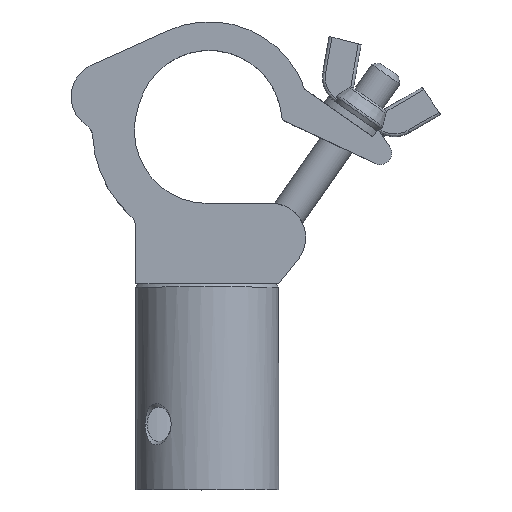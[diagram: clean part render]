
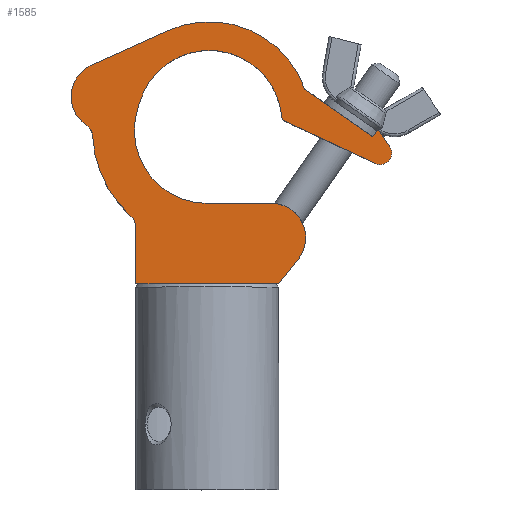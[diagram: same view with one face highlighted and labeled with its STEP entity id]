
A CAD part, top view. The second image highlights one B-rep face of the part: STEP entity #1585.
In plain terms, the highlighted planar face has unit normal (0, 0, 1).
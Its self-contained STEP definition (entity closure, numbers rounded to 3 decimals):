
#118=PLANE('',#1756);
#190=FACE_OUTER_BOUND('',#274,.T.);
#274=EDGE_LOOP('',(#1322,#1323,#1324,#1325,#1326,#1327,#1328,#1329,#1330,
#1331,#1332,#1333,#1334,#1335,#1336,#1337,#1338,#1339,#1340,#1341,#1342,
#1343));
#328=CIRCLE('',#1718,25.4);
#329=CIRCLE('',#1721,2.);
#332=CIRCLE('',#1732,4.);
#334=CIRCLE('',#1736,35.4);
#343=CIRCLE('',#1747,12.);
#346=CIRCLE('',#1755,12.);
#347=CIRCLE('',#1757,5.);
#348=CIRCLE('',#1758,40.);
#349=CIRCLE('',#1759,5.);
#350=CIRCLE('',#1760,12.);
#351=CIRCLE('',#1761,25.4);
#380=LINE('',#2286,#488);
#425=LINE('',#2729,#533);
#434=LINE('',#2753,#542);
#435=LINE('',#2756,#543);
#437=LINE('',#2760,#545);
#449=LINE('',#2808,#557);
#450=LINE('',#2813,#558);
#454=LINE('',#2820,#562);
#456=LINE('',#2824,#564);
#458=LINE('',#2836,#566);
#459=LINE('',#2837,#567);
#488=VECTOR('',#1839,10.);
#533=VECTOR('',#2052,10.);
#542=VECTOR('',#2077,10.);
#543=VECTOR('',#2080,10.);
#545=VECTOR('',#2084,10.);
#557=VECTOR('',#2136,10.);
#558=VECTOR('',#2141,10.);
#562=VECTOR('',#2147,10.);
#564=VECTOR('',#2151,10.);
#566=VECTOR('',#2165,10.);
#567=VECTOR('',#2166,10.);
#601=VERTEX_POINT('',#2283);
#602=VERTEX_POINT('',#2285);
#671=VERTEX_POINT('',#2717);
#672=VERTEX_POINT('',#2719);
#675=VERTEX_POINT('',#2726);
#676=VERTEX_POINT('',#2728);
#677=VERTEX_POINT('',#2732);
#683=VERTEX_POINT('',#2751);
#684=VERTEX_POINT('',#2755);
#685=VERTEX_POINT('',#2759);
#699=VERTEX_POINT('',#2800);
#700=VERTEX_POINT('',#2804);
#701=VERTEX_POINT('',#2806);
#702=VERTEX_POINT('',#2810);
#703=VERTEX_POINT('',#2812);
#704=VERTEX_POINT('',#2816);
#705=VERTEX_POINT('',#2818);
#706=VERTEX_POINT('',#2822);
#707=VERTEX_POINT('',#2826);
#708=VERTEX_POINT('',#2830);
#709=VERTEX_POINT('',#2832);
#710=VERTEX_POINT('',#2834);
#752=EDGE_CURVE('',#602,#601,#380,.T.);
#867=EDGE_CURVE('',#672,#671,#328,.T.);
#871=EDGE_CURVE('',#675,#676,#425,.T.);
#873=EDGE_CURVE('',#677,#671,#329,.T.);
#884=EDGE_CURVE('',#677,#683,#434,.T.);
#885=EDGE_CURVE('',#684,#602,#435,.T.);
#887=EDGE_CURVE('',#685,#684,#437,.T.);
#891=EDGE_CURVE('',#685,#683,#332,.T.);
#893=EDGE_CURVE('',#601,#676,#334,.T.);
#908=EDGE_CURVE('',#699,#672,#343,.T.);
#912=EDGE_CURVE('',#700,#701,#449,.T.);
#914=EDGE_CURVE('',#703,#702,#450,.T.);
#918=EDGE_CURVE('',#704,#705,#454,.T.);
#920=EDGE_CURVE('',#701,#706,#456,.T.);
#922=EDGE_CURVE('',#675,#707,#346,.T.);
#923=EDGE_CURVE('',#707,#708,#347,.T.);
#924=EDGE_CURVE('',#708,#709,#348,.T.);
#925=EDGE_CURVE('',#709,#710,#349,.T.);
#926=EDGE_CURVE('',#710,#703,#458,.T.);
#927=EDGE_CURVE('',#700,#702,#459,.T.);
#928=EDGE_CURVE('',#706,#704,#350,.T.);
#929=EDGE_CURVE('',#705,#699,#351,.T.);
#1322=ORIENTED_EDGE('',*,*,#923,.T.);
#1323=ORIENTED_EDGE('',*,*,#924,.T.);
#1324=ORIENTED_EDGE('',*,*,#925,.T.);
#1325=ORIENTED_EDGE('',*,*,#926,.T.);
#1326=ORIENTED_EDGE('',*,*,#914,.T.);
#1327=ORIENTED_EDGE('',*,*,#927,.F.);
#1328=ORIENTED_EDGE('',*,*,#912,.T.);
#1329=ORIENTED_EDGE('',*,*,#920,.T.);
#1330=ORIENTED_EDGE('',*,*,#928,.T.);
#1331=ORIENTED_EDGE('',*,*,#918,.T.);
#1332=ORIENTED_EDGE('',*,*,#929,.T.);
#1333=ORIENTED_EDGE('',*,*,#908,.T.);
#1334=ORIENTED_EDGE('',*,*,#867,.T.);
#1335=ORIENTED_EDGE('',*,*,#873,.F.);
#1336=ORIENTED_EDGE('',*,*,#884,.T.);
#1337=ORIENTED_EDGE('',*,*,#891,.F.);
#1338=ORIENTED_EDGE('',*,*,#887,.T.);
#1339=ORIENTED_EDGE('',*,*,#885,.T.);
#1340=ORIENTED_EDGE('',*,*,#752,.T.);
#1341=ORIENTED_EDGE('',*,*,#893,.T.);
#1342=ORIENTED_EDGE('',*,*,#871,.F.);
#1343=ORIENTED_EDGE('',*,*,#922,.T.);
#1585=ADVANCED_FACE('',(#190),#118,.T.);
#1718=AXIS2_PLACEMENT_3D('',#2720,#2045,#2046);
#1721=AXIS2_PLACEMENT_3D('',#2733,#2056,#2057);
#1732=AXIS2_PLACEMENT_3D('',#2767,#2092,#2093);
#1736=AXIS2_PLACEMENT_3D('',#2771,#2100,#2101);
#1747=AXIS2_PLACEMENT_3D('',#2801,#2128,#2129);
#1755=AXIS2_PLACEMENT_3D('',#2828,#2155,#2156);
#1756=AXIS2_PLACEMENT_3D('',#2829,#2157,#2158);
#1757=AXIS2_PLACEMENT_3D('',#2831,#2159,#2160);
#1758=AXIS2_PLACEMENT_3D('',#2833,#2161,#2162);
#1759=AXIS2_PLACEMENT_3D('',#2835,#2163,#2164);
#1760=AXIS2_PLACEMENT_3D('',#2838,#2167,#2168);
#1761=AXIS2_PLACEMENT_3D('',#2839,#2169,#2170);
#1839=DIRECTION('',(-0.819,0.574,0.));
#2045=DIRECTION('center_axis',(0.,0.,-1.));
#2046=DIRECTION('ref_axis',(-0.999,-0.043,0.));
#2052=DIRECTION('',(0.911,0.413,0.));
#2056=DIRECTION('center_axis',(0.,0.,-1.));
#2057=DIRECTION('ref_axis',(-0.819,-0.574,0.));
#2077=DIRECTION('',(0.906,-0.423,0.));
#2080=DIRECTION('',(-0.574,-0.819,0.));
#2084=DIRECTION('',(-0.559,0.829,0.));
#2092=DIRECTION('center_axis',(0.,0.,-1.));
#2093=DIRECTION('ref_axis',(0.76,-0.649,0.));
#2100=DIRECTION('center_axis',(0.,0.,1.));
#2101=DIRECTION('ref_axis',(0.942,0.336,0.));
#2128=DIRECTION('center_axis',(0.,0.,1.));
#2129=DIRECTION('ref_axis',(0.948,-0.318,0.));
#2136=DIRECTION('',(1.,0.,0.));
#2141=DIRECTION('',(1.,0.,0.));
#2147=DIRECTION('',(-1.,0.,0.));
#2151=DIRECTION('',(0.624,0.781,0.));
#2155=DIRECTION('center_axis',(0.,0.,1.));
#2156=DIRECTION('ref_axis',(0.948,-0.318,0.));
#2157=DIRECTION('center_axis',(0.,0.,1.));
#2158=DIRECTION('ref_axis',(1.,0.,0.));
#2159=DIRECTION('center_axis',(0.,0.,-1.));
#2160=DIRECTION('ref_axis',(-0.999,-0.049,0.));
#2161=DIRECTION('center_axis',(0.,0.,1.));
#2162=DIRECTION('ref_axis',(-0.999,-0.049,0.));
#2163=DIRECTION('center_axis',(0.,0.,-1.));
#2164=DIRECTION('ref_axis',(-1.,0.,0.));
#2165=DIRECTION('',(0.,-1.,0.));
#2166=DIRECTION('',(-1.,0.,0.));
#2167=DIRECTION('center_axis',(0.,0.,1.));
#2168=DIRECTION('ref_axis',(0.781,-0.624,0.));
#2169=DIRECTION('center_axis',(0.,0.,-1.));
#2170=DIRECTION('ref_axis',(0.948,-0.318,0.));
#2283=CARTESIAN_POINT('',(34.116,67.904,15.));
#2285=CARTESIAN_POINT('',(57.872,51.27,15.));
#2286=CARTESIAN_POINT('',(57.872,51.27,15.));
#2717=CARTESIAN_POINT('',(26.071,58.262,15.));
#2719=CARTESIAN_POINT('',(-23.81,62.422,15.));
#2720=CARTESIAN_POINT('Origin',(0.77,56.021,15.));
#2726=CARTESIAN_POINT('',(-40.411,76.231,15.));
#2728=CARTESIAN_POINT('',(-13.835,88.268,15.));
#2729=CARTESIAN_POINT('',(-6.29,91.685,15.));
#2732=CARTESIAN_POINT('',(27.218,56.626,15.));
#2733=CARTESIAN_POINT('Origin',(28.063,58.439,15.));
#2751=CARTESIAN_POINT('',(58.745,41.925,15.));
#2753=CARTESIAN_POINT('',(26.146,57.126,15.));
#2755=CARTESIAN_POINT('',(59.67,53.838,15.));
#2756=CARTESIAN_POINT('',(59.67,53.838,15.));
#2759=CARTESIAN_POINT('',(63.752,47.787,15.));
#2760=CARTESIAN_POINT('',(71.817,35.829,15.));
#2767=CARTESIAN_POINT('Origin',(60.435,45.55,15.));
#2771=CARTESIAN_POINT('Origin',(0.77,56.021,15.));
#2800=CARTESIAN_POINT('',(-24.084,61.482,15.));
#2801=CARTESIAN_POINT('Origin',(-35.46,65.3,15.));
#2804=CARTESIAN_POINT('',(18.478,0.,15.));
#2806=CARTESIAN_POINT('',(25.,0.,15.));
#2808=CARTESIAN_POINT('',(-25.,0.,15.));
#2810=CARTESIAN_POINT('',(-18.478,0.,15.));
#2812=CARTESIAN_POINT('',(-25.,0.,15.));
#2813=CARTESIAN_POINT('',(-25.,0.,15.));
#2816=CARTESIAN_POINT('',(22.42,28.,15.));
#2818=CARTESIAN_POINT('',(-0.004,28.,15.));
#2820=CARTESIAN_POINT('',(22.42,28.,15.));
#2822=CARTESIAN_POINT('',(31.797,8.512,15.));
#2824=CARTESIAN_POINT('',(25.,0.,15.));
#2826=CARTESIAN_POINT('',(-42.159,55.344,15.));
#2828=CARTESIAN_POINT('Origin',(-35.46,65.3,15.));
#2829=CARTESIAN_POINT('Origin',(-10.777,28.921,15.));
#2830=CARTESIAN_POINT('',(-39.956,51.44,15.));
#2831=CARTESIAN_POINT('Origin',(-44.95,51.195,15.));
#2832=CARTESIAN_POINT('',(-26.667,23.583,15.));
#2833=CARTESIAN_POINT('Origin',(-0.004,53.4,15.));
#2834=CARTESIAN_POINT('',(-25.,19.856,15.));
#2835=CARTESIAN_POINT('Origin',(-30.,19.856,15.));
#2836=CARTESIAN_POINT('',(-25.,19.856,15.));
#2837=CARTESIAN_POINT('',(-5.389,0.,15.));
#2838=CARTESIAN_POINT('Origin',(22.42,16.,15.));
#2839=CARTESIAN_POINT('Origin',(-0.004,53.4,15.));
